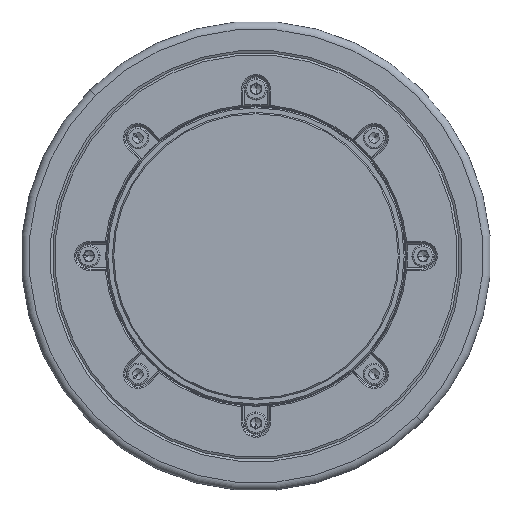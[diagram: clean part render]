
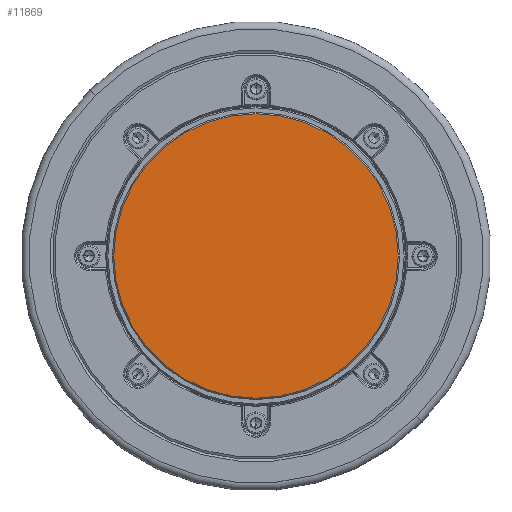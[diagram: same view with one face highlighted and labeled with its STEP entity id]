
A CAD part, left-side view. The second image highlights one B-rep face of the part: STEP entity #11869.
In plain terms, the highlighted planar face has unit normal (-1, 0, 0).
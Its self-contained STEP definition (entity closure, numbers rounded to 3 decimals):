
#9434=CARTESIAN_POINT('',(0.,0.,0.));
#9435=DIRECTION('',(-1.,0.,0.));
#9436=DIRECTION('',(0.,0.,1.));
#9437=AXIS2_PLACEMENT_3D('',#9434,#9435,#9436);
#9439=CARTESIAN_POINT('',(0.,0.,0.));
#9440=DIRECTION('',(-1.,0.,0.));
#9441=DIRECTION('',(0.,0.,-1.));
#9442=AXIS2_PLACEMENT_3D('',#9439,#9440,#9441);
#10309=CARTESIAN_POINT('',(0.,0.,-54.5));
#10310=CARTESIAN_POINT('',(0.,0.,54.5));
#10311=VERTEX_POINT('',#10309);
#10312=VERTEX_POINT('',#10310);
#11859=CARTESIAN_POINT('',(0.,0.,0.));
#11860=DIRECTION('',(-1.,0.,0.));
#11861=DIRECTION('',(0.,0.,1.));
#11862=AXIS2_PLACEMENT_3D('',#11859,#11860,#11861);
#11863=PLANE('',#11862);
#11864=ORIENTED_EDGE('',*,*,#11849,.F.);
#11866=ORIENTED_EDGE('',*,*,#11865,.F.);
#11867=EDGE_LOOP('',(#11864,#11866));
#11868=FACE_OUTER_BOUND('',#11867,.F.);
#11869=ADVANCED_FACE('',(#11868),#11863,.T.);
#9438=CIRCLE('',#9437,54.5);
#9443=CIRCLE('',#9442,54.5);
#11849=EDGE_CURVE('',#10312,#10311,#9438,.T.);
#11865=EDGE_CURVE('',#10311,#10312,#9443,.T.);
